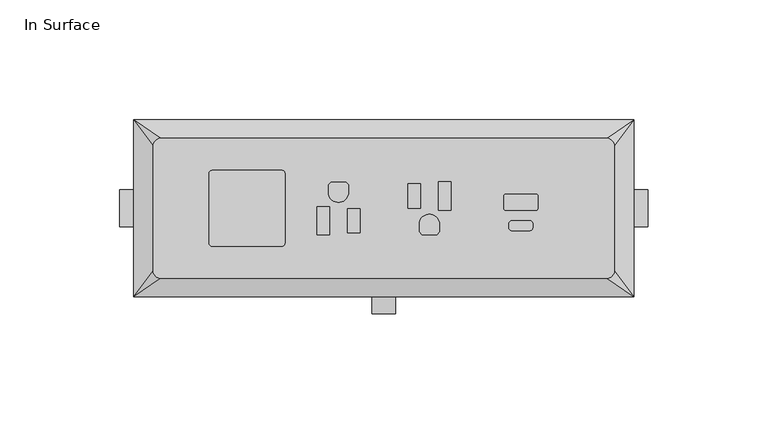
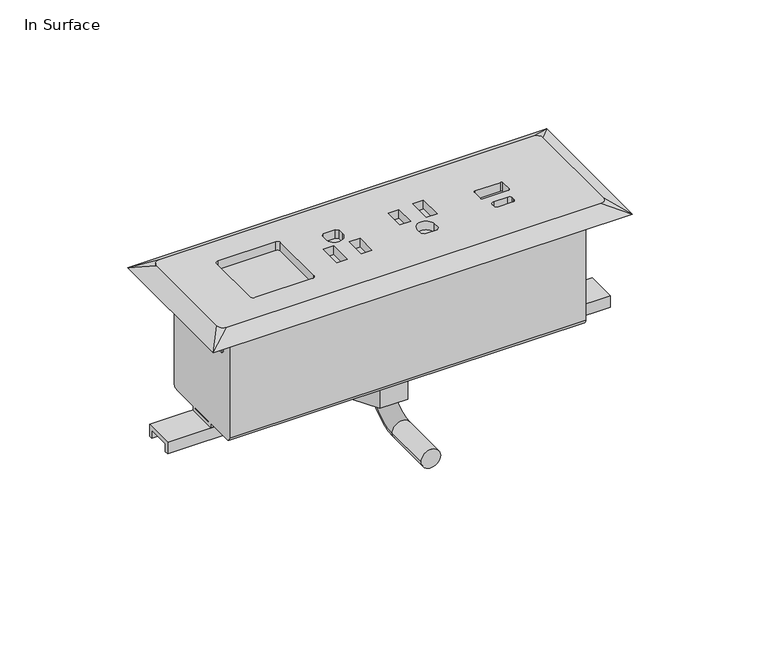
"""IFC4 building model written with IfcOpenShell, lengths in millimetres: furniture geometry, Geiger_GeigerOneCasegoods_PowerComponent2PowerOutlets1USBA1USBC : In Surface."""

from ifc_helpers import new_model, si_unit, point, frame, frame_2d, origin, origin_with_axes, place, context, project, spatial, polyline, circle_curve, ellipse_curve, trimmed, segment, composite_curve, outline, extrude, source, transform, mapped, element, save
from ifc_brep_helpers import plane_surface, cylinder_surface, revolved_surface, spline_surface, advanced_brep


def in_surface_6b24b240(model_context):
    return source(origin(), model_context, "Body", "SolidModel", [
        advanced_brep(
        [(-4.8401847, -44.0, -88.0269858), (4.8401847, -44.0, -88.0269858), (4.8401847, -19.05, -88.0269858), (-4.8401847, -19.05, -88.0269858), (-4.8401847, 0.0, -68.9769858), (4.8401847, 0.0, -68.9769858)],
        [
            (0, 1, circle_curve(frame((0.0, -44.0, -88.0269858), z_axis=(0.0, -1.0, 0.0), x_axis=(1.0, 0.0, 0.0)), 4.8401847)),
            (1, 0, circle_curve(frame((0.0, -44.0, -88.0269858), z_axis=(0.0, -1.0, 0.0), x_axis=(1.0, 0.0, 0.0)), 4.8401847)),
            (1, 2),
            (2, 3, circle_curve(frame((0.0, -19.05, -88.0269858), z_axis=(0.0, -1.0, 0.0), x_axis=(1.0, 0.0, 0.0)), 4.8401847)),
            (3, 0),
            (3, 2, circle_curve(frame((0.0, -19.05, -88.0269858), z_axis=(0.0, -1.0, 0.0), x_axis=(1.0, 0.0, 0.0)), 4.8401847)),
            (4, 5, circle_curve(frame((0.0, 0.0, -68.9769858), z_axis=(0.0, 0.0, 1.0), x_axis=(1.0, 0.0, 0.0)), 4.8401847)),
            (5, 4, circle_curve(frame((0.0, 0.0, -68.9769858), z_axis=(0.0, 0.0, 1.0), x_axis=(1.0, 0.0, 0.0)), 4.8401847)),
            (4, 3, circle_curve(frame((-4.8401847, -19.05, -68.9769858), z_axis=(-1.0, 0.0, 0.0), x_axis=(0.0, 0.0, -1.0)), 19.05)),
            (2, 5, circle_curve(frame((4.8401847, -19.05, -68.9769858), z_axis=(1.0, 0.0, 0.0), x_axis=(0.0, 0.0, -1.0)), 19.05)),
        ],
        [
            plane_surface(frame((0.0, -44.0, -88.0269858), z_axis=(0.0, -1.0, 0.0), x_axis=(1.0, 0.0, 0.0))),
            cylinder_surface(frame((0.0, -44.0, -88.0269858), z_axis=(0.0, -1.0, 0.0), x_axis=(1.0, 0.0, 0.0)), 4.8401847),
            plane_surface(frame((0.0, 0.0, -68.9769858), z_axis=(0.0, 0.0, 1.0), x_axis=(1.0, 0.0, 0.0))),
            revolved_surface(trimmed(ellipse_curve(frame((0.0, -19.05, -88.0269858), z_axis=(0.0, 1.0, 0.0), x_axis=(1.0, 0.0, 0.0)), 4.8401847, 4.8401847), [point((-4.8401847, -19.05, -88.0269858))], [point((4.8401847, -19.05, -88.0269858))], True, "CARTESIAN"), (0.0, -19.05, -68.9769858), (-1.0, 0.0, 0.0)),
            revolved_surface(trimmed(ellipse_curve(frame((0.0, -19.05, -88.0269858), z_axis=(0.0, 1.0, 0.0), x_axis=(1.0, 0.0, 0.0)), 4.8401847, 4.8401847), [point((4.8401847, -19.05, -88.0269858))], [point((-4.8401847, -19.05, -88.0269858))], True, "CARTESIAN"), (0.0, -19.05, -68.9769858), (-1.0, 0.0, 0.0)),
        ],
        [
            (0, [[1, 2]]),
            (1, [[3, 4, 5, -2]]),
            (1, [[-5, 6, -3, -1]]),
            (2, [[7, 8]]),
            (3, [[-7, 9, -4, 10]]),
            (4, [[-8, -10, -6, -9]]),
        ],
    ),
        extrude(outline(polyline([(-13.931462, 0.0), (-6.965731, 12.065), (6.965731, 12.065), (13.931462, 0.0), (6.965731, -12.065), (-6.965731, -12.065), (-13.931462, 0.0)])), frame((0.0, 0.0, -78.5519858), z_axis=(0.0, 0.0, 1.0), x_axis=(1.0, 0.0, 0.0)), (0.0, 0.0, 1.0), 18.034),
        advanced_brep(
        [(88.7222, -23.8600261, -0.8910834), (88.7222, -23.8600261, -58.4700119), (88.7222, -21.8280261, -60.5020119), (88.7222, -7.5057, -60.5020119), (88.7222, -7.5057, -62.7277858), (88.7222, 7.5057, -62.7277858), (88.7222, 7.5057, -60.5020119), (88.7222, 21.8315885, -60.5020119), (88.7222, 23.8600261, -58.4735743), (88.7222, 23.8600261, -0.8910834), (88.7222, 22.5742479, -0.8910834), (88.7222, 22.0547838, 0.0), (88.7222, -22.0547838, 0.0), (88.7222, -22.5742479, -0.8910834), (88.7222, 5.6007, -60.5020119), (88.7222, 5.6007, -60.8227858), (88.7222, -5.6007, -60.8227858), (88.7222, -5.6007, -60.5020119), (-88.7222, -23.8600261, -0.8910834), (-88.7222, -22.5742479, -0.8910834), (-88.7222, -22.0547838, 0.0), (-88.7222, 22.0547838, 0.0), (-88.7222, 22.5742479, -0.8910834), (-88.7222, 23.8600261, -0.8910834), (-88.7222, 23.8600261, -58.4735743), (-88.7222, 21.8315885, -60.5020119), (-88.7222, 7.5057, -60.5020119), (-88.7222, 7.5057, -62.7277858), (-88.7222, -7.5057, -62.7277858), (-88.7222, -7.5057, -60.5020119), (-88.7222, -21.8280261, -60.5020119), (-88.7222, -23.8600261, -58.4700119), (-88.7222, 5.6007, -60.8227858), (-88.7222, 5.6007, -60.5020119), (-88.7222, -5.6007, -60.5020119), (-88.7222, -5.6007, -60.8227858), (69.5452, 7.5057, -60.5020119), (69.5452, 5.6007, -60.5020119), (69.5452, -5.6007, -60.5020119), (69.5452, -7.5057, -60.5020119), (-69.5452, -7.5057, -60.5020119), (-69.5452, -5.6007, -60.5020119), (-69.5452, 5.6007, -60.5020119), (-69.5452, 7.5057, -60.5020119), (-69.5452, 7.5057, -62.7277858), (-69.5452, 5.6007, -60.8227858), (-69.5452, -5.6007, -60.8227858), (-69.5452, -7.5057, -62.7277858), (69.5452, 5.6007, -60.8227858), (69.5452, 7.5057, -62.7277858), (69.5452, -7.5057, -62.7277858), (69.5452, -5.6007, -60.8227858)],
        [
            (0, 1),
            (1, 2, circle_curve(frame((88.7222, -21.8280261, -58.4700119), z_axis=(1.0, 0.0, 0.0), x_axis=(0.0, 1.0, 0.0)), 2.032)),
            (2, 3),
            (3, 4),
            (4, 5),
            (5, 6),
            (6, 7),
            (7, 8, circle_curve(frame((88.7222, 21.8315885, -58.4735743), z_axis=(1.0, 0.0, 0.0), x_axis=(0.0, 1.0, 0.0)), 2.0284377)),
            (8, 9),
            (9, 10),
            (10, 11),
            (11, 12),
            (12, 13),
            (13, 0),
            (14, 15),
            (15, 16),
            (16, 17),
            (17, 14),
            (18, 19),
            (19, 20),
            (20, 21),
            (21, 22),
            (22, 23),
            (23, 24),
            (24, 25, circle_curve(frame((-88.7222, 21.8315885, -58.4735743), z_axis=(-1.0, 0.0, 0.0), x_axis=(0.0, 1.0, 0.0)), 2.0284377)),
            (25, 26),
            (26, 27),
            (27, 28),
            (28, 29),
            (29, 30),
            (30, 31, circle_curve(frame((-88.7222, -21.8280261, -58.4700119), z_axis=(-1.0, 0.0, 0.0), x_axis=(0.0, 1.0, 0.0)), 2.032)),
            (31, 18),
            (32, 33),
            (33, 34),
            (34, 35),
            (35, 32),
            (13, 19),
            (18, 0),
            (12, 20),
            (11, 21),
            (10, 22),
            (9, 23),
            (8, 24),
            (7, 25),
            (6, 36),
            (36, 37),
            (37, 14),
            (17, 38),
            (38, 39),
            (39, 3),
            (2, 30),
            (29, 40),
            (40, 41),
            (41, 34),
            (33, 42),
            (42, 43),
            (43, 26),
            (1, 31),
            (44, 43),
            (42, 45),
            (45, 46),
            (46, 41),
            (40, 47),
            (47, 44),
            (27, 44),
            (47, 28),
            (46, 35),
            (45, 32),
            (48, 37),
            (36, 49),
            (49, 50),
            (50, 39),
            (38, 51),
            (51, 48),
            (4, 50),
            (49, 5),
            (16, 51),
            (15, 48),
        ],
        [
            plane_surface(frame((88.7222, -23.8600261, -0.8910834), z_axis=(1.0, 0.0, 0.0), x_axis=(0.0, 1.0, 0.0))),
            plane_surface(frame((-88.7222, -23.8600261, -0.8910834), z_axis=(-1.0, 0.0, 0.0), x_axis=(0.0, -1.0, 0.0))),
            plane_surface(frame((88.7222, -23.8600261, -0.8910834), z_axis=(0.0, 0.0, 1.0), x_axis=(-1.0, 0.0, 0.0))),
            plane_surface(frame((88.7222, -22.5742479, -0.8910834), z_axis=(0.0, -0.8639200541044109, 0.5036289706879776), x_axis=(-1.0, 0.0, 0.0))),
            plane_surface(frame((88.7222, -22.0547838, 0.0), z_axis=(0.0, 0.0, 1.0), x_axis=(-1.0, 0.0, 0.0))),
            plane_surface(frame((88.7222, 22.0547838, 0.0), z_axis=(0.0, 0.8639200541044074, 0.5036289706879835), x_axis=(-1.0, 0.0, 0.0))),
            plane_surface(frame((88.7222, 22.5742479, -0.8910834), z_axis=(0.0, 0.0, 1.0), x_axis=(-1.0, 0.0, 0.0))),
            plane_surface(frame((88.7222, 23.8600261, -0.8910834), z_axis=(0.0, 1.0, 0.0), x_axis=(-1.0, 0.0, 0.0))),
            cylinder_surface(frame((-88.7222, 21.8315885, -58.4735743), z_axis=(1.0, 0.0, 0.0), x_axis=(0.0, 1.0, 0.0)), 2.0284377),
            plane_surface(frame((88.7222, 21.8315885, -60.5020119), z_axis=(0.0, 0.0, -1.0), x_axis=(-1.0, 0.0, 0.0))),
            cylinder_surface(frame((-88.7222, -21.8280261, -58.4700119), z_axis=(1.0, 0.0, 0.0), x_axis=(0.0, 1.0, 0.0)), 2.032),
            plane_surface(frame((88.7222, -23.8600261, -58.4700119), z_axis=(0.0, -1.0, 0.0), x_axis=(-1.0, 0.0, 0.0))),
            plane_surface(frame((-69.5452, -7.747, -62.7277858), z_axis=(1.0, 0.0, 0.0), x_axis=(0.0, -1.0, 0.0))),
            plane_surface(frame((-69.5452, 7.5057, -62.7277858), z_axis=(0.0, 0.0, -1.0), x_axis=(-1.0, 0.0, 0.0))),
            plane_surface(frame((-69.5452, -7.5057, -62.7277858), z_axis=(0.0, -1.0, 0.0), x_axis=(-1.0, 0.0, 0.0))),
            plane_surface(frame((-69.5452, -5.6007, -60.0218921), z_axis=(0.0, 1.0, 0.0), x_axis=(-1.0, 0.0, 0.0))),
            plane_surface(frame((-69.5452, -5.6007, -60.8227858), z_axis=(0.0, 0.0, 1.0), x_axis=(-1.0, 0.0, 0.0))),
            plane_surface(frame((-69.5452, 5.6007, -60.8227858), z_axis=(0.0, -1.0, 0.0), x_axis=(-1.0, 0.0, 0.0))),
            plane_surface(frame((-69.5452, 7.5057, -60.0218921), z_axis=(0.0, 1.0, 0.0), x_axis=(-1.0, 0.0, 0.0))),
            plane_surface(frame((69.5452, 7.5057, -58.3589858), z_axis=(-1.0, 0.0, 0.0), x_axis=(0.0, 0.0, 1.0))),
            plane_surface(frame((69.5452, -7.5057, -62.7277858), z_axis=(0.0, 0.0, -1.0), x_axis=(1.0, 0.0, 0.0))),
            plane_surface(frame((69.5452, -7.5057, -60.0218921), z_axis=(0.0, -1.0, 0.0), x_axis=(1.0, 0.0, 0.0))),
            plane_surface(frame((69.5452, -5.6007, -60.8227858), z_axis=(0.0, 1.0, 0.0), x_axis=(1.0, 0.0, 0.0))),
            plane_surface(frame((69.5452, 5.6007, -60.8227858), z_axis=(0.0, 0.0, 1.0), x_axis=(1.0, 0.0, 0.0))),
            plane_surface(frame((69.5452, 5.6007, -60.0218921), z_axis=(0.0, -1.0, 0.0), x_axis=(1.0, 0.0, 0.0))),
            plane_surface(frame((69.5452, 7.5057, -62.7277858), z_axis=(0.0, 1.0, 0.0), x_axis=(1.0, 0.0, 0.0))),
        ],
        [
            (0, [[1, 2, 3, 4, 5, 6, 7, 8, 9, 10, 11, 12, 13, 14], [15, 16, 17, 18]]),
            (1, [[19, 20, 21, 22, 23, 24, 25, 26, 27, 28, 29, 30, 31, 32], [33, 34, 35, 36]]),
            (2, [[37, -19, 38, -14]]),
            (3, [[39, -20, -37, -13]]),
            (4, [[40, -21, -39, -12]]),
            (5, [[41, -22, -40, -11]]),
            (6, [[42, -23, -41, -10]]),
            (7, [[43, -24, -42, -9]]),
            (8, [[44, -25, -43, -8]]),
            (9, [[-7, 45, 46, 47, -18, 48, 49, 50, -3, 51, -30, 52, 53, 54, -34, 55, 56, 57, -26, -44]]),
            (10, [[58, -31, -51, -2]]),
            (11, [[-38, -32, -58, -1]]),
            (12, [[59, -56, 60, 61, 62, -53, 63, 64]]),
            (13, [[65, -64, 66, -28]]),
            (14, [[-63, -52, -29, -66]]),
            (15, [[-35, -54, -62, 67]]),
            (16, [[-67, -61, 68, -36]]),
            (17, [[-60, -55, -33, -68]]),
            (18, [[-27, -57, -59, -65]]),
            (19, [[69, -46, 70, 71, 72, -49, 73, 74]]),
            (20, [[75, -71, 76, -5]]),
            (21, [[-4, -50, -72, -75]]),
            (22, [[-73, -48, -17, 77]]),
            (23, [[78, -74, -77, -16]]),
            (24, [[-15, -47, -69, -78]]),
            (25, [[-70, -45, -6, -76]]),
        ],
    ),
        extrude(outline(polyline([(-7.747, -68.9507858), (-7.747, -62.7277858), (7.747, -62.7277858), (7.747, -68.9507858), (5.842, -68.9507858), (5.842, -64.6327858), (-5.842, -64.6327858), (-5.842, -68.9507858), (-7.747, -68.9507858)])), frame((69.5452, 0.0, 0.0), z_axis=(1.0, 0.0, 0.0), x_axis=(0.0, 1.0, 0.0)), (0.0, 0.0, 1.0), 40.7162),
        extrude(outline(polyline([(-7.747, -68.9507858), (-7.747, -62.7277858), (7.747, -62.7277858), (7.747, -68.9507858), (5.842, -68.9507858), (5.842, -64.6327858), (-5.842, -64.6327858), (-5.842, -68.9507858), (-7.747, -68.9507858)])), frame((-110.2614, 0.0, 0.0), z_axis=(1.0, 0.0, 0.0), x_axis=(0.0, 1.0, 0.0)), (0.0, 0.0, 1.0), 40.7162),
        extrude(outline(polyline([(89.9015496, -19.05), (88.7222, -19.05), (88.7222, 19.05), (89.9015496, 19.05), (89.9015496, -19.05)])), frame((0.0, 0.0, -15.8489981), z_axis=(0.0, 0.0, 1.0), x_axis=(1.0, 0.0, 0.0)), (0.0, 0.0, 1.0), 15.8489981),
        extrude(outline(polyline([(-89.9015496, 19.05), (-88.7222, 19.05), (-88.7222, -19.05), (-89.9015496, -19.05), (-89.9015496, 19.05)])), frame((0.0, 0.0, -15.8489981), z_axis=(0.0, 0.0, 1.0), x_axis=(1.0, 0.0, 0.0)), (0.0, 0.0, 1.0), 15.8489981),
        advanced_brep(
        [(96.2787, -26.035, 4.8529008), (96.2787, 26.035, 4.8529008), (93.1037, 29.21, 4.8529008), (-93.1037, 29.21, 4.8529008), (-96.2787, 26.035, 4.8529008), (-96.2787, -26.035, 4.8529008), (-93.1037, -29.21, 4.8529008), (93.1037, -29.21, 4.8529008), (-42.77496, -15.8495153, 4.8529008), (-71.4847758, -15.8495153, 4.8529008), (-73.00096, -14.3333312, 4.8529008), (-73.00096, 14.3764847, 4.8529008), (-71.47696, 15.9004847, 4.8529008), (-42.77496, 15.9004847, 4.8529008), (-41.25096, 14.3764847, 4.8529008), (-41.25096, -14.3255153, 4.8529008), (-27.9323695, -11.0794695, 4.8529008), (-27.9323695, 0.7162695, 4.8529008), (-22.6136305, 0.7162695, 4.8529008), (-22.6136305, -11.0794695, 4.8529008), (-15.2323695, -10.2539695, 4.8529008), (-15.2323695, -0.1092305, 4.8529008), (-9.9154429, -0.1092305, 4.8529008), (-9.9154429, -10.2539695, 4.8529008), (-23.1571691, 6.7045859, 4.8529008), (-23.1571695, 9.8074379, 4.8529008), (-22.0248379, 10.9397695, 4.8529008), (-15.8211621, 10.9397695, 4.8529008), (-14.6888305, 9.8074379, 4.8529008), (-14.6888305, 6.7045863, 4.8529008), (10.0678429, 0.1092305, 4.8529008), (10.0678429, 10.2539695, 4.8529008), (15.3847695, 10.2539695, 4.8529008), (15.3847695, 0.1092305, 4.8529008), (22.7660305, -0.7162695, 4.8529008), (22.7660305, 11.0794695, 4.8529008), (28.0847695, 11.0794695, 4.8529008), (28.0847695, -0.7162695, 4.8529008), (14.8389662, -9.8074379, 4.8529008), (14.8389662, -6.7045863, 4.8529008), (23.3073048, -6.7045859, 4.8529008), (23.3073051, -9.8074379, 4.8529008), (22.1749736, -10.9397695, 4.8529008), (15.9712978, -10.9397695, 4.8529008), (53.6958283, -5.1542876, 4.8529008), (60.8085437, -5.1542876, 4.8529008), (62.2556283, -6.6013722, 4.8529008), (62.2556283, -7.8697757, 4.8529008), (60.8055164, -9.3198876, 4.8529008), (53.6958283, -9.3198876, 4.8529008), (52.2480283, -7.8720876, 4.8529008), (52.2480283, -6.6020876, 4.8529008), (63.6026274, -0.7610628, 4.8529008), (50.9017141, -0.7610628, 4.8529008), (50.1905141, -0.0498628, 4.8529008), (50.1905141, 5.2638172, 4.8529008), (50.9017141, 5.9750172, 4.8529008), (63.6017141, 5.9750172, 4.8529008), (64.3129141, 5.2638172, 4.8529008), (64.3129141, -0.050776, 4.8529008), (104.3952174, -36.9450555, 0.0), (-104.3952174, -36.9450555, 0.0), (-104.3952174, 36.9450555, 0.0), (104.3952174, 36.9450555, 0.0), (-41.25096, -14.3255153, 0.0), (-41.25096, 14.3764847, 0.0), (-42.77496, 15.9004847, 0.0), (-71.47696, 15.9004847, 0.0), (-73.00096, 14.3764847, 0.0), (-73.00096, -14.3333312, 0.0), (-71.4847758, -15.8495153, 0.0), (-42.77496, -15.8495153, 0.0), (-22.6136305, -11.0794695, 0.0), (-22.6136305, 0.7162695, 0.0), (-27.9323695, 0.7162695, 0.0), (-27.9323695, -11.0794695, 0.0), (-9.9154429, -10.2539695, 0.0), (-9.9154429, -0.1092305, 0.0), (-15.2323695, -0.1092305, 0.0), (-15.2323695, -10.2539695, 0.0), (-14.6888305, 6.7045863, 0.0), (-14.6888305, 9.8074379, 0.0), (-15.8211621, 10.9397695, 0.0), (-22.0248379, 10.9397695, 0.0), (-23.1571695, 9.8074379, 0.0), (-23.1571691, 6.7045859, 0.0), (15.3847695, 0.1092305, 0.0), (15.3847695, 10.2539695, 0.0), (10.0678429, 10.2539695, 0.0), (10.0678429, 0.1092305, 0.0), (28.0847695, -0.7162695, 0.0), (28.0847695, 11.0794695, 0.0), (22.7660305, 11.0794695, 0.0), (22.7660305, -0.7162695, 0.0), (15.9712978, -10.9397695, 0.0), (22.1749736, -10.9397695, 0.0), (23.3073051, -9.8074379, 0.0), (23.3073048, -6.7045859, 0.0), (14.8389662, -6.7045863, 0.0), (14.8389662, -9.8074379, 0.0), (52.2480283, -6.6020876, 0.0), (52.2480283, -7.8720876, 0.0), (53.6958283, -9.3198876, 0.0), (60.8055164, -9.3198876, 0.0), (62.2556283, -7.8697757, 0.0), (62.2556283, -6.6013722, 0.0), (60.8085437, -5.1542876, 0.0), (53.6958283, -5.1542876, 0.0), (64.3129141, -0.050776, 0.0), (64.3129141, 5.2638172, 0.0), (63.6017141, 5.9750172, 0.0), (50.9017141, 5.9750172, 0.0), (50.1905141, 5.2638172, 0.0), (50.1905141, -0.0498628, 0.0), (50.9017141, -0.7610628, 0.0), (63.6026274, -0.7610628, 0.0)],
        [
            (0, 1),
            (1, 2, circle_curve(frame((93.1037, 26.035, 4.8529008), z_axis=(0.0, 0.0, 1.0), x_axis=(1.0, 0.0, 0.0)), 3.175)),
            (2, 3),
            (3, 4, circle_curve(frame((-93.1037, 26.035, 4.8529008), z_axis=(0.0, 0.0, 1.0), x_axis=(1.0, 0.0, 0.0)), 3.175)),
            (4, 5),
            (5, 6, circle_curve(frame((-93.1037, -26.035, 4.8529008), z_axis=(0.0, 0.0, 1.0), x_axis=(1.0, 0.0, 0.0)), 3.175)),
            (6, 7),
            (7, 0, circle_curve(frame((93.1037, -26.035, 4.8529008), z_axis=(0.0, 0.0, 1.0), x_axis=(1.0, 0.0, 0.0)), 3.175)),
            (8, 9),
            (9, 10, circle_curve(frame((-71.4847758, -14.3333312, 4.8529008), z_axis=(0.0, 0.0, -1.0), x_axis=(1.0, 0.0, 0.0)), 1.5161841)),
            (10, 11),
            (11, 12, circle_curve(frame((-71.47696, 14.3764847, 4.8529008), z_axis=(0.0, 0.0, -1.0), x_axis=(1.0, 0.0, 0.0)), 1.524)),
            (12, 13),
            (13, 14, circle_curve(frame((-42.77496, 14.3764847, 4.8529008), z_axis=(0.0, 0.0, -1.0), x_axis=(1.0, 0.0, 0.0)), 1.524)),
            (14, 15),
            (15, 8, circle_curve(frame((-42.77496, -14.3255153, 4.8529008), z_axis=(0.0, 0.0, -1.0), x_axis=(1.0, 0.0, 0.0)), 1.524)),
            (16, 17),
            (17, 18),
            (18, 19),
            (19, 16),
            (20, 21),
            (21, 22),
            (22, 23),
            (23, 20),
            (24, 25),
            (25, 26),
            (26, 27),
            (27, 28),
            (28, 29),
            (29, 24, circle_curve(frame((-18.9229998, 6.7045863, 4.8529008), z_axis=(0.0, 0.0, -1.0), x_axis=(1.0, 0.0, 0.0)), 4.2341693)),
            (30, 31),
            (31, 32),
            (32, 33),
            (33, 30),
            (34, 35),
            (35, 36),
            (36, 37),
            (37, 34),
            (38, 39),
            (39, 40, circle_curve(frame((19.0731355, -6.7045863, 4.8529008), z_axis=(0.0, 0.0, -1.0), x_axis=(-1.0, 0.0, 0.0)), 4.2341693)),
            (40, 41),
            (41, 42),
            (42, 43),
            (43, 38),
            (44, 45),
            (45, 46, circle_curve(frame((60.8085437, -6.6013722, 4.8529008), z_axis=(0.0, 0.0, -1.0), x_axis=(1.0, 0.0, 0.0)), 1.4470846)),
            (46, 47),
            (47, 48, circle_curve(frame((60.8055164, -7.8697757, 4.8529008), z_axis=(0.0, 0.0, -1.0), x_axis=(1.0, 0.0, 0.0)), 1.4501118)),
            (48, 49),
            (49, 50, circle_curve(frame((53.6958283, -7.8720876, 4.8529008), z_axis=(0.0, 0.0, -1.0), x_axis=(1.0, 0.0, 0.0)), 1.4478)),
            (50, 51),
            (51, 44, circle_curve(frame((53.6958283, -6.6020876, 4.8529008), z_axis=(0.0, 0.0, -1.0), x_axis=(1.0, 0.0, 0.0)), 1.4478)),
            (52, 53),
            (53, 54, circle_curve(frame((50.9017141, -0.0498628, 4.8529008), z_axis=(0.0, 0.0, -1.0), x_axis=(1.0, 0.0, 0.0)), 0.7112)),
            (54, 55),
            (55, 56, circle_curve(frame((50.9017141, 5.2638172, 4.8529008), z_axis=(0.0, 0.0, -1.0), x_axis=(1.0, 0.0, 0.0)), 0.7112)),
            (56, 57),
            (57, 58, circle_curve(frame((63.6017141, 5.2638172, 4.8529008), z_axis=(0.0, 0.0, -1.0), x_axis=(1.0, 0.0, 0.0)), 0.7112)),
            (58, 59),
            (59, 52, circle_curve(frame((63.6026274, -0.050776, 4.8529008), z_axis=(0.0, 0.0, -1.0), x_axis=(1.0, 0.0, 0.0)), 0.7102868)),
            (60, 61),
            (61, 62),
            (62, 63),
            (63, 60),
            (64, 65),
            (65, 66, circle_curve(frame((-42.77496, 14.3764847, 0.0), z_axis=(0.0, 0.0, 1.0), x_axis=(1.0, 0.0, 0.0)), 1.524)),
            (66, 67),
            (67, 68, circle_curve(frame((-71.47696, 14.3764847, 0.0), z_axis=(0.0, 0.0, 1.0), x_axis=(1.0, 0.0, 0.0)), 1.524)),
            (68, 69),
            (69, 70, circle_curve(frame((-71.4847758, -14.3333312, 0.0), z_axis=(0.0, 0.0, 1.0), x_axis=(1.0, 0.0, 0.0)), 1.5161841)),
            (70, 71),
            (71, 64, circle_curve(frame((-42.77496, -14.3255153, 0.0), z_axis=(0.0, 0.0, 1.0), x_axis=(1.0, 0.0, 0.0)), 1.524)),
            (72, 73),
            (73, 74),
            (74, 75),
            (75, 72),
            (76, 77),
            (77, 78),
            (78, 79),
            (79, 76),
            (80, 81),
            (81, 82),
            (82, 83),
            (83, 84),
            (84, 85),
            (85, 80, circle_curve(frame((-18.9229998, 6.7045863, 0.0), z_axis=(0.0, 0.0, 1.0), x_axis=(1.0, 0.0, 0.0)), 4.2341693)),
            (86, 87),
            (87, 88),
            (88, 89),
            (89, 86),
            (90, 91),
            (91, 92),
            (92, 93),
            (93, 90),
            (94, 95),
            (95, 96),
            (96, 97),
            (97, 98, circle_curve(frame((19.0731355, -6.7045863, 0.0), z_axis=(0.0, 0.0, 1.0), x_axis=(-1.0, 0.0, 0.0)), 4.2341693)),
            (98, 99),
            (99, 94),
            (100, 101),
            (101, 102, circle_curve(frame((53.6958283, -7.8720876, 0.0), z_axis=(0.0, 0.0, 1.0), x_axis=(1.0, 0.0, 0.0)), 1.4478)),
            (102, 103),
            (103, 104, circle_curve(frame((60.8055164, -7.8697757, 0.0), z_axis=(0.0, 0.0, 1.0), x_axis=(1.0, 0.0, 0.0)), 1.4501118)),
            (104, 105),
            (105, 106, circle_curve(frame((60.8085437, -6.6013722, 0.0), z_axis=(0.0, 0.0, 1.0), x_axis=(1.0, 0.0, 0.0)), 1.4470846)),
            (106, 107),
            (107, 100, circle_curve(frame((53.6958283, -6.6020876, 0.0), z_axis=(0.0, 0.0, 1.0), x_axis=(1.0, 0.0, 0.0)), 1.4478)),
            (108, 109),
            (109, 110, circle_curve(frame((63.6017141, 5.2638172, 0.0), z_axis=(0.0, 0.0, 1.0), x_axis=(1.0, 0.0, 0.0)), 0.7112)),
            (110, 111),
            (111, 112, circle_curve(frame((50.9017141, 5.2638172, 0.0), z_axis=(0.0, 0.0, 1.0), x_axis=(1.0, 0.0, 0.0)), 0.7112)),
            (112, 113),
            (113, 114, circle_curve(frame((50.9017141, -0.0498628, 0.0), z_axis=(0.0, 0.0, 1.0), x_axis=(1.0, 0.0, 0.0)), 0.7112)),
            (114, 115),
            (115, 108, circle_curve(frame((63.6026274, -0.050776, 0.0), z_axis=(0.0, 0.0, 1.0), x_axis=(1.0, 0.0, 0.0)), 0.7102868)),
            (7, 60),
            (60, 0),
            (6, 61),
            (5, 61),
            (4, 62),
            (3, 62),
            (2, 63),
            (1, 63),
            (71, 8),
            (15, 64),
            (14, 65),
            (13, 66),
            (12, 67),
            (11, 68),
            (10, 69),
            (9, 70),
            (75, 16),
            (19, 72),
            (18, 73),
            (17, 74),
            (79, 20),
            (23, 76),
            (22, 77),
            (21, 78),
            (85, 24),
            (29, 80),
            (28, 81),
            (27, 82),
            (26, 83),
            (25, 84),
            (89, 30),
            (33, 86),
            (32, 87),
            (31, 88),
            (93, 34),
            (37, 90),
            (36, 91),
            (35, 92),
            (99, 38),
            (43, 94),
            (42, 95),
            (41, 96),
            (40, 97),
            (39, 98),
            (107, 44),
            (51, 100),
            (50, 101),
            (49, 102),
            (48, 103),
            (47, 104),
            (46, 105),
            (45, 106),
            (115, 52),
            (59, 108),
            (58, 109),
            (57, 110),
            (56, 111),
            (55, 112),
            (54, 113),
            (53, 114),
        ],
        [
            plane_surface(frame((0.0, 0.0, 4.8529008), z_axis=(0.0, 0.0, 1.0), x_axis=(-1.0, 0.0, 0.0))),
            plane_surface(frame((0.0, 0.0, 0.0), z_axis=(0.0, 0.0, -1.0), x_axis=(-1.0, 0.0, 0.0))),
            spline_surface(1, 2, [[(104.3952174, -36.9450555, 0.0), (104.3952174, -36.9450555, 0.0), (104.3952174, -36.9450555, 0.0)], [(96.2787, -26.035, 4.8529008), (96.2787, -29.209999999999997, 4.8529008), (93.1037, -29.21, 4.8529008)]], [2, 2], [3, 3], [0.0, 1.0], [0.0, 1.0], weights=[[1.0, 0.7071067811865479, 1.0], [1.0, 0.7071067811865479, 1.0]]),
            plane_surface(frame((0.0, -36.9450555, 0.0), z_axis=(0.0, -0.5314543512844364, 0.8470869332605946), x_axis=(-1.0, 0.0, 0.0))),
            spline_surface(1, 2, [[(-104.3952174, -36.9450555, 0.0), (-104.3952174, -36.9450555, 0.0), (-104.3952174, -36.9450555, 0.0)], [(-93.1037, -29.21, 4.8529008), (-96.2787, -29.210000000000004, 4.8529008), (-96.2787, -26.035, 4.8529008)]], [2, 2], [3, 3], [0.0, 1.0], [0.0, 1.0], weights=[[1.0, 0.7071067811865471, 1.0], [1.0, 0.7071067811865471, 1.0]]),
            plane_surface(frame((-104.3952174, 0.0, 0.0), z_axis=(-0.5131725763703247, 0.0, 0.8582854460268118), x_axis=(0.0, 1.0, 0.0))),
            spline_surface(1, 2, [[(-104.3952174, 36.9450555, 0.0), (-104.3952174, 36.9450555, 0.0), (-104.3952174, 36.9450555, 0.0)], [(-96.2787, 26.035, 4.8529008), (-96.2787, 29.209999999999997, 4.8529008), (-93.1037, 29.21, 4.8529008)]], [2, 2], [3, 3], [0.0, 1.0], [0.0, 1.0], weights=[[1.0, 0.7071067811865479, 1.0], [1.0, 0.7071067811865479, 1.0]]),
            plane_surface(frame((0.0, 36.9450555, 0.0), z_axis=(0.0, 0.5314543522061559, 0.8470869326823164), x_axis=(1.0, 0.0, 0.0))),
            spline_surface(1, 2, [[(104.3952174, 36.9450555, 0.0), (104.3952174, 36.9450555, 0.0), (104.3952174, 36.9450555, 0.0)], [(93.1037, 29.21, 4.8529008), (96.2787, 29.210000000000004, 4.8529008), (96.2787, 26.035, 4.8529008)]], [2, 2], [3, 3], [0.0, 1.0], [0.0, 1.0], weights=[[1.0, 0.7071067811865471, 1.0], [1.0, 0.7071067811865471, 1.0]]),
            plane_surface(frame((104.3952174, 0.0, 0.0), z_axis=(0.5131725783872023, 0.0, 0.8582854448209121), x_axis=(0.0, -1.0, 0.0))),
            revolved_surface(polyline([(-41.25096, -14.3255153, 0.0), (-41.25096, -14.3255153, 4.8529008)]), (-42.77496, -14.3255153, 4.8529008), (0.0, 0.0, -1.0)),
            plane_surface(frame((-41.25096, -14.3255153, 0.0), z_axis=(-1.0, 0.0, 0.0), x_axis=(0.0, 0.0, 1.0))),
            revolved_surface(polyline([(-41.25096, 14.3764847, 0.0), (-41.25096, 14.3764847, 4.8529008)]), (-42.77496, 14.3764847, 4.8529008), (0.0, 0.0, -1.0)),
            plane_surface(frame((-42.77496, 15.9004847, 0.0), z_axis=(0.0, -1.0, 0.0), x_axis=(0.0, 0.0, 1.0))),
            revolved_surface(polyline([(-69.95296, 14.3764847, 0.0), (-69.95296, 14.3764847, 4.8529008)]), (-71.47696, 14.3764847, 4.8529008), (0.0, 0.0, -1.0)),
            plane_surface(frame((-73.00096, 14.3764847, 0.0), z_axis=(1.0, 0.0, 0.0), x_axis=(0.0, 0.0, 1.0))),
            revolved_surface(polyline([(-69.96859169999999, -14.3333312, 0.0), (-69.96859169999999, -14.3333312, 4.8529008)]), (-71.4847758, -14.3333312, 4.8529008), (0.0, 0.0, -1.0)),
            plane_surface(frame((-71.4847758, -15.8495153, 0.0), z_axis=(0.0, 1.0, 0.0), x_axis=(0.0, 0.0, 1.0))),
            plane_surface(frame((-27.9323695, -11.0794695, 0.0), z_axis=(0.0, 1.0, 0.0), x_axis=(0.0, 0.0, 1.0))),
            plane_surface(frame((-22.6136305, -11.0794695, 0.0), z_axis=(-1.0, 0.0, 0.0), x_axis=(0.0, 0.0, 1.0))),
            plane_surface(frame((-22.6136305, 0.7162695, 0.0), z_axis=(0.0, -1.0, 0.0), x_axis=(0.0, 0.0, 1.0))),
            plane_surface(frame((-27.9323695, 0.7162695, 0.0), z_axis=(1.0, 0.0, 0.0), x_axis=(0.0, 0.0, 1.0))),
            plane_surface(frame((-15.2323695, -10.2539695, 0.0), z_axis=(0.0, 1.0, 0.0), x_axis=(0.0, 0.0, 1.0))),
            plane_surface(frame((-9.9154429, -10.2539695, 0.0), z_axis=(-1.0, 0.0, 0.0), x_axis=(0.0, 0.0, 1.0))),
            plane_surface(frame((-9.9154429, -0.1092305, 0.0), z_axis=(0.0, -1.0, 0.0), x_axis=(0.0, 0.0, 1.0))),
            plane_surface(frame((-15.2323695, -0.1092305, 0.0), z_axis=(1.0, 0.0, 0.0), x_axis=(0.0, 0.0, 1.0))),
            revolved_surface(polyline([(-14.6888305, 6.7045863, 0.0), (-14.6888305, 6.7045863, 4.8529008)]), (-18.9229998, 6.7045863, 4.8529008), (0.0, 0.0, -1.0)),
            plane_surface(frame((-14.6888305, 6.7045863, 0.0), z_axis=(-1.0, 0.0, 0.0), x_axis=(0.0, 0.0, 1.0))),
            plane_surface(frame((-14.6888305, 9.8074379, 0.0), z_axis=(-0.7071067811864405, -0.7071067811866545, 0.0), x_axis=(0.0, 0.0, 1.0))),
            plane_surface(frame((-15.8211621, 10.9397695, 0.0), z_axis=(0.0, -1.0, 0.0), x_axis=(0.0, 0.0, 1.0))),
            plane_surface(frame((-22.0248379, 10.9397695, 0.0), z_axis=(0.7071067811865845, -0.7071067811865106, 0.0), x_axis=(0.0, 0.0, 1.0))),
            plane_surface(frame((-23.1571695, 9.8074379, 0.0), z_axis=(0.9999999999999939, 1.1048249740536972e-07, 0.0), x_axis=(0.0, 0.0, 1.0))),
            plane_surface(frame((10.0678429, 0.1092305, 0.0), z_axis=(0.0, 1.0, 0.0), x_axis=(0.0, 0.0, 1.0))),
            plane_surface(frame((15.3847695, 0.1092305, 0.0), z_axis=(-1.0, 0.0, 0.0), x_axis=(0.0, 0.0, 1.0))),
            plane_surface(frame((15.3847695, 10.2539695, 0.0), z_axis=(0.0, -1.0, 0.0), x_axis=(0.0, 0.0, 1.0))),
            plane_surface(frame((10.0678429, 10.2539695, 0.0), z_axis=(1.0, 0.0, 0.0), x_axis=(0.0, 0.0, 1.0))),
            plane_surface(frame((22.7660305, -0.7162695, 0.0), z_axis=(0.0, 1.0, 0.0), x_axis=(0.0, 0.0, 1.0))),
            plane_surface(frame((28.0847695, -0.7162695, 0.0), z_axis=(-1.0, 0.0, 0.0), x_axis=(0.0, 0.0, 1.0))),
            plane_surface(frame((28.0847695, 11.0794695, 0.0), z_axis=(0.0, -1.0, 0.0), x_axis=(0.0, 0.0, 1.0))),
            plane_surface(frame((22.7660305, 11.0794695, 0.0), z_axis=(1.0, 0.0, 0.0), x_axis=(0.0, 0.0, 1.0))),
            plane_surface(frame((14.8389662, -9.8074379, 0.0), z_axis=(0.7071067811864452, 0.7071067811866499, 0.0), x_axis=(0.0, 0.0, 1.0))),
            plane_surface(frame((15.9712978, -10.9397695, 0.0), z_axis=(0.0, 1.0, 0.0), x_axis=(0.0, 0.0, 1.0))),
            plane_surface(frame((22.1749736, -10.9397695, 0.0), z_axis=(-0.7071067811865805, 0.7071067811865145, 0.0), x_axis=(0.0, 0.0, 1.0))),
            plane_surface(frame((23.3073051, -9.8074379, 0.0), z_axis=(-0.9999999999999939, -1.1048249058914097e-07, 0.0), x_axis=(0.0, 0.0, 1.0))),
            revolved_surface(polyline([(14.8389662, -6.7045863, 0.0), (14.8389662, -6.7045863, 4.8529008)]), (19.0731355, -6.7045863, 4.8529008), (0.0, 0.0, -1.0)),
            plane_surface(frame((14.8389662, -6.7045863, 0.0), z_axis=(1.0, 0.0, 0.0), x_axis=(0.0, 0.0, 1.0))),
            revolved_surface(polyline([(55.1436283, -6.6020876, 0.0), (55.1436283, -6.6020876, 4.8529008)]), (53.6958283, -6.6020876, 4.8529008), (0.0, 0.0, -1.0)),
            plane_surface(frame((52.2480283, -6.6020876, 0.0), z_axis=(1.0, 0.0, 0.0), x_axis=(0.0, 0.0, 1.0))),
            revolved_surface(polyline([(55.1436283, -7.8720876, 0.0), (55.1436283, -7.8720876, 4.8529008)]), (53.6958283, -7.8720876, 4.8529008), (0.0, 0.0, -1.0)),
            plane_surface(frame((53.6958283, -9.3198876, 0.0), z_axis=(0.0, 1.0, 0.0), x_axis=(0.0, 0.0, 1.0))),
            revolved_surface(polyline([(62.255628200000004, -7.8697757, 0.0), (62.255628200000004, -7.8697757, 4.8529008)]), (60.8055164, -7.8697757, 4.8529008), (0.0, 0.0, -1.0)),
            plane_surface(frame((62.2556283, -7.8697757, 0.0), z_axis=(-1.0, 0.0, 0.0), x_axis=(0.0, 0.0, 1.0))),
            revolved_surface(polyline([(62.2556283, -6.6013722, 0.0), (62.2556283, -6.6013722, 4.8529008)]), (60.8085437, -6.6013722, 4.8529008), (0.0, 0.0, -1.0)),
            plane_surface(frame((60.8085437, -5.1542876, 0.0), z_axis=(0.0, -1.0, 0.0), x_axis=(0.0, 0.0, 1.0))),
            revolved_surface(polyline([(64.31291420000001, -0.050776, 0.0), (64.31291420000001, -0.050776, 4.8529008)]), (63.6026274, -0.050776, 4.8529008), (0.0, 0.0, -1.0)),
            plane_surface(frame((64.3129141, -0.050776, 0.0), z_axis=(-1.0, 0.0, 0.0), x_axis=(0.0, 0.0, 1.0))),
            revolved_surface(polyline([(64.3129141, 5.2638172, 0.0), (64.3129141, 5.2638172, 4.8529008)]), (63.6017141, 5.2638172, 4.8529008), (0.0, 0.0, -1.0)),
            plane_surface(frame((63.6017141, 5.9750172, 0.0), z_axis=(0.0, -1.0, 0.0), x_axis=(0.0, 0.0, 1.0))),
            revolved_surface(polyline([(51.6129141, 5.2638172, 0.0), (51.6129141, 5.2638172, 4.8529008)]), (50.9017141, 5.2638172, 4.8529008), (0.0, 0.0, -1.0)),
            plane_surface(frame((50.1905141, 5.2638172, 0.0), z_axis=(1.0, 0.0, 0.0), x_axis=(0.0, 0.0, 1.0))),
            revolved_surface(polyline([(51.6129141, -0.0498628, 0.0), (51.6129141, -0.0498628, 4.8529008)]), (50.9017141, -0.0498628, 4.8529008), (0.0, 0.0, -1.0)),
            plane_surface(frame((50.9017141, -0.7610628, 0.0), z_axis=(0.0, 1.0, 0.0), x_axis=(0.0, 0.0, 1.0))),
        ],
        [
            (0, [[1, 2, 3, 4, 5, 6, 7, 8], [9, 10, 11, 12, 13, 14, 15, 16], [17, 18, 19, 20], [21, 22, 23, 24], [25, 26, 27, 28, 29, 30], [31, 32, 33, 34], [35, 36, 37, 38], [39, 40, 41, 42, 43, 44], [45, 46, 47, 48, 49, 50, 51, 52], [53, 54, 55, 56, 57, 58, 59, 60]]),
            (1, [[61, 62, 63, 64], [65, 66, 67, 68, 69, 70, 71, 72], [73, 74, 75, 76], [77, 78, 79, 80], [81, 82, 83, 84, 85, 86], [87, 88, 89, 90], [91, 92, 93, 94], [95, 96, 97, 98, 99, 100], [101, 102, 103, 104, 105, 106, 107, 108], [109, 110, 111, 112, 113, 114, 115, 116]]),
            (2, [[117, 118, -8]]),
            (3, [[119, -61, -117, -7]]),
            (4, [[120, -119, -6]]),
            (5, [[121, -62, -120, -5]]),
            (6, [[122, -121, -4]]),
            (7, [[123, -63, -122, -3]]),
            (8, [[124, -123, -2]]),
            (9, [[-118, -64, -124, -1]]),
            (10, [[-72, 125, -16, 126]]),
            (11, [[-15, 127, -65, -126]]),
            (12, [[-14, 128, -66, -127]]),
            (13, [[-13, 129, -67, -128]]),
            (14, [[-12, 130, -68, -129]]),
            (15, [[-11, 131, -69, -130]]),
            (16, [[-10, 132, -70, -131]]),
            (17, [[-71, -132, -9, -125]]),
            (18, [[-76, 133, -20, 134]]),
            (19, [[-19, 135, -73, -134]]),
            (20, [[-18, 136, -74, -135]]),
            (21, [[-75, -136, -17, -133]]),
            (22, [[-80, 137, -24, 138]]),
            (23, [[-23, 139, -77, -138]]),
            (24, [[-22, 140, -78, -139]]),
            (25, [[-79, -140, -21, -137]]),
            (26, [[-86, 141, -30, 142]]),
            (27, [[-29, 143, -81, -142]]),
            (28, [[-28, 144, -82, -143]]),
            (29, [[-27, 145, -83, -144]]),
            (30, [[-26, 146, -84, -145]]),
            (31, [[-85, -146, -25, -141]]),
            (32, [[-90, 147, -34, 148]]),
            (33, [[-33, 149, -87, -148]]),
            (34, [[-32, 150, -88, -149]]),
            (35, [[-89, -150, -31, -147]]),
            (36, [[-94, 151, -38, 152]]),
            (37, [[-37, 153, -91, -152]]),
            (38, [[-36, 154, -92, -153]]),
            (39, [[-93, -154, -35, -151]]),
            (40, [[-100, 155, -44, 156]]),
            (41, [[-43, 157, -95, -156]]),
            (42, [[-42, 158, -96, -157]]),
            (43, [[-41, 159, -97, -158]]),
            (44, [[-40, 160, -98, -159]]),
            (45, [[-99, -160, -39, -155]]),
            (46, [[-108, 161, -52, 162]]),
            (47, [[-51, 163, -101, -162]]),
            (48, [[-50, 164, -102, -163]]),
            (49, [[-49, 165, -103, -164]]),
            (50, [[-48, 166, -104, -165]]),
            (51, [[-47, 167, -105, -166]]),
            (52, [[-46, 168, -106, -167]]),
            (53, [[-107, -168, -45, -161]]),
            (54, [[-116, 169, -60, 170]]),
            (55, [[-59, 171, -109, -170]]),
            (56, [[-58, 172, -110, -171]]),
            (57, [[-57, 173, -111, -172]]),
            (58, [[-56, 174, -112, -173]]),
            (59, [[-55, 175, -113, -174]]),
            (60, [[-54, 176, -114, -175]]),
            (61, [[-115, -176, -53, -169]]),
        ],
    ),
        extrude(outline(composite_curve([segment(polyline([(93.1037, -29.21), (-93.0947978, -29.21)]), True, "CONTINUOUS"), segment(trimmed(circle_curve(frame_2d((-93.0947978, -26.0260978)), 3.1839022), [point((-93.0947978, -29.21))], [point((-96.2787, -26.0260978))], False, "CARTESIAN"), True, "CONTINUOUS"), segment(polyline([(-96.2787, -26.0260978), (-96.2787, 26.035)]), True, "CONTINUOUS"), segment(trimmed(circle_curve(frame_2d((-93.1037, 26.035)), 3.175), [point((-96.2787, 26.035))], [point((-93.1037, 29.21))], False, "CARTESIAN"), True, "CONTINUOUS"), segment(polyline([(-93.1037, 29.21), (93.1037, 29.21)]), True, "CONTINUOUS"), segment(trimmed(circle_curve(frame_2d((93.1037, 26.035)), 3.175), [point((93.1037, 29.21))], [point((96.2787, 26.035))], False, "CARTESIAN"), True, "CONTINUOUS"), segment(polyline([(96.2787, 26.035), (96.2787, -26.035)]), True, "CONTINUOUS"), segment(trimmed(circle_curve(frame_2d((93.1037, -26.035)), 3.175), [point((96.2787, -26.035))], [point((93.1037, -29.21))], False, "CARTESIAN"), True, "CONTINUOUS")], self_intersect=False), holes=[composite_curve([segment(trimmed(circle_curve(frame_2d((-42.77496, -14.3255153)), 1.524), [point((-42.77496, -15.8495153))], [point((-41.25096, -14.3255153))], True, "CARTESIAN"), True, "CONTINUOUS"), segment(polyline([(-41.25096, -14.3255153), (-41.25096, 14.3764847)]), True, "CONTINUOUS"), segment(trimmed(circle_curve(frame_2d((-42.77496, 14.3764847)), 1.524), [point((-41.25096, 14.3764847))], [point((-42.77496, 15.9004847))], True, "CARTESIAN"), True, "CONTINUOUS"), segment(polyline([(-42.77496, 15.9004847), (-71.47696, 15.9004847)]), True, "CONTINUOUS"), segment(trimmed(circle_curve(frame_2d((-71.47696, 14.3764847)), 1.524), [point((-71.47696, 15.9004847))], [point((-73.00096, 14.3764847))], True, "CARTESIAN"), True, "CONTINUOUS"), segment(polyline([(-73.00096, 14.3764847), (-73.00096, -14.3333312)]), True, "CONTINUOUS"), segment(trimmed(circle_curve(frame_2d((-71.4847758, -14.3333312)), 1.5161841), [point((-73.00096, -14.3333312))], [point((-71.4847758, -15.8495153))], True, "CARTESIAN"), True, "CONTINUOUS"), segment(polyline([(-71.4847758, -15.8495153), (-42.77496, -15.8495153)]), True, "CONTINUOUS")], self_intersect=False), polyline([(-22.6136305, -11.0794695), (-22.6136305, 0.7162695), (-27.9323695, 0.7162695), (-27.9323695, -11.0794695), (-22.6136305, -11.0794695)]), polyline([(-9.9154429, -10.2539695), (-9.9154429, -0.1092305), (-15.2323695, -0.1092305), (-15.2323695, -10.2539695), (-9.9154429, -10.2539695)]), polyline([(15.3847695, 0.1092305), (15.3847695, 10.2539695), (10.0678429, 10.2539695), (10.0678429, 0.1092305), (15.3847695, 0.1092305)]), polyline([(28.0847695, 11.0794695), (22.7660305, 11.0794695), (22.7660305, -0.7162695), (28.0847695, -0.7162695), (28.0847695, 11.0794695)]), composite_curve([segment(trimmed(circle_curve(frame_2d((63.6026274, -0.050776)), 0.7102868), [point((63.6026274, -0.7610628))], [point((64.3129141, -0.050776))], True, "CARTESIAN"), True, "CONTINUOUS"), segment(polyline([(64.3129141, -0.050776), (64.3129141, 5.2638172)]), True, "CONTINUOUS"), segment(trimmed(circle_curve(frame_2d((63.6017141, 5.2638172)), 0.7112), [point((64.3129141, 5.2638172))], [point((63.6017141, 5.9750172))], True, "CARTESIAN"), True, "CONTINUOUS"), segment(polyline([(63.6017141, 5.9750172), (50.9017141, 5.9750172)]), True, "CONTINUOUS"), segment(trimmed(circle_curve(frame_2d((50.9017141, 5.2638172)), 0.7112), [point((50.9017141, 5.9750172))], [point((50.1905141, 5.2638172))], True, "CARTESIAN"), True, "CONTINUOUS"), segment(polyline([(50.1905141, 5.2638172), (50.1905141, -0.0498628)]), True, "CONTINUOUS"), segment(trimmed(circle_curve(frame_2d((50.9017141, -0.0498628)), 0.7112), [point((50.1905141, -0.0498628))], [point((50.9017141, -0.7610628))], True, "CARTESIAN"), True, "CONTINUOUS"), segment(polyline([(50.9017141, -0.7610628), (63.6026274, -0.7610628)]), True, "CONTINUOUS")], self_intersect=False), composite_curve([segment(trimmed(circle_curve(frame_2d((60.8055164, -7.8697757)), 1.4501118), [point((60.8055164, -9.3198876))], [point((62.2556283, -7.8697757))], True, "CARTESIAN"), True, "CONTINUOUS"), segment(polyline([(62.2556283, -7.8697757), (62.2556283, -6.6013722)]), True, "CONTINUOUS"), segment(trimmed(circle_curve(frame_2d((60.8085437, -6.6013722)), 1.4470846), [point((62.2556283, -6.6013722))], [point((60.8085437, -5.1542876))], True, "CARTESIAN"), True, "CONTINUOUS"), segment(polyline([(60.8085437, -5.1542876), (53.6958283, -5.1542876)]), True, "CONTINUOUS"), segment(trimmed(circle_curve(frame_2d((53.6958283, -6.6020876)), 1.4478), [point((53.6958283, -5.1542876))], [point((52.2480283, -6.6020876))], True, "CARTESIAN"), True, "CONTINUOUS"), segment(polyline([(52.2480283, -6.6020876), (52.2480283, -7.8720876)]), True, "CONTINUOUS"), segment(trimmed(circle_curve(frame_2d((53.6958283, -7.8720876)), 1.4478), [point((52.2480283, -7.8720876))], [point((53.6958283, -9.3198876))], True, "CARTESIAN"), True, "CONTINUOUS"), segment(polyline([(53.6958283, -9.3198876), (60.8055164, -9.3198876)]), True, "CONTINUOUS")], self_intersect=False), composite_curve([segment(polyline([(-14.6888305, 6.7045863), (-14.6888305, 9.8074379), (-15.8211621, 10.9397695), (-22.0248379, 10.9397695), (-23.1571695, 9.8074379), (-23.1571691, 6.7045859)]), True, "CONTINUOUS"), segment(trimmed(circle_curve(frame_2d((-18.9229998, 6.7045863)), 4.2341693), [point((-23.1571691, 6.7045859))], [point((-14.6888305, 6.7045863))], True, "CARTESIAN"), True, "CONTINUOUS")], self_intersect=False), composite_curve([segment(polyline([(14.8389662, -6.7045863), (14.8389662, -9.8074379), (15.9712978, -10.9397695), (22.1749736, -10.9397695), (23.3073051, -9.8074379), (23.3073048, -6.7045859)]), True, "CONTINUOUS"), segment(trimmed(circle_curve(frame_2d((19.0731355, -6.7045863)), 4.2341693), [point((23.3073048, -6.7045859))], [point((14.8389662, -6.7045863))], True, "CARTESIAN"), True, "CONTINUOUS")], self_intersect=False)]), origin_with_axes(), (0.0, 0.0, 1.0), 4.8529008),
    ])


if __name__ == "__main__":
    model = new_model("IFC4")
    model_context = context("Model", 3, world=origin())
    ifc_project = project(units=[si_unit("LENGTHUNIT", "METRE", prefix="MILLI")], contexts=[model_context])
    site = spatial("IfcSite", under=ifc_project)
    building = spatial("IfcBuilding", under=site)
    placement = place(None, origin())
    in_surface_shape = in_surface_6b24b240(model_context)
    element("IfcFurniture", 1, ObjectType="Geiger_GeigerOneCasegoods_PowerComponent2PowerOutlets1USBA1USBC : In Surface", at=placement, inside=building, context=model_context, shape_type="MappedRepresentation", body=[
        mapped(in_surface_shape, transform((0.0, 0.0, 0.0), x_axis=(1.0, 0.0, 0.0), y_axis=(0.0, 1.0, 0.0), z_axis=(0.0, 0.0, 1.0))),
    ])
    save(model, "model.ifc")
